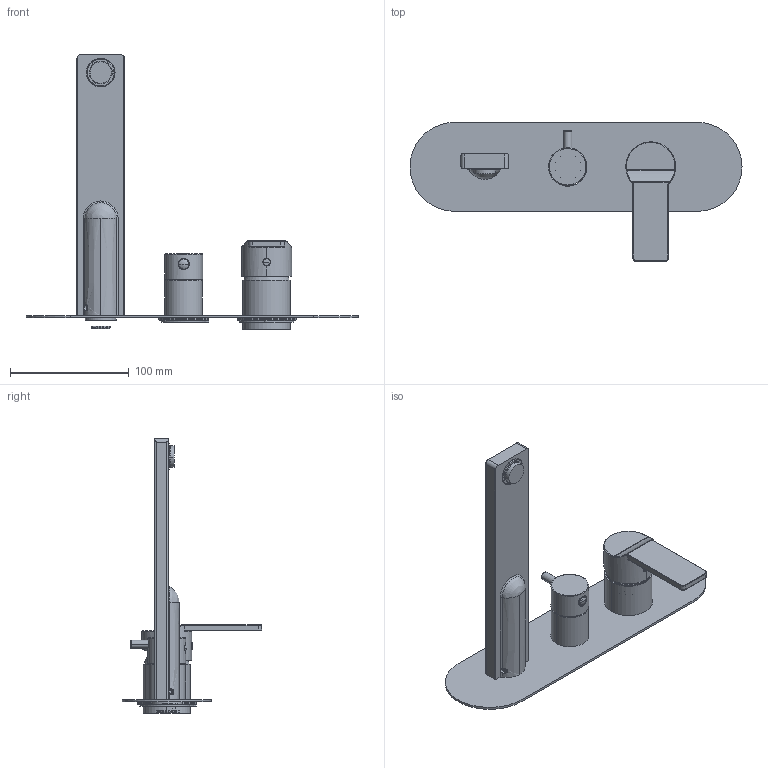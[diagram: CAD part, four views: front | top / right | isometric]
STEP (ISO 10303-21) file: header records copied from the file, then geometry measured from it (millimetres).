
FILE_DESCRIPTION((''),'2;1');
FILE_NAME('3D_SW0001','2024-03-14T14:09:44',('volponeff'),(''),'CREO PARAMETRIC BY PTC INC, 2022014','CREO PARAMETRIC BY PTC INC, 2022014','');
FILE_SCHEMA(('CONFIG_CONTROL_DESIGN'));
Products named in the file (1): 3D_SW0001
Bounding box: 280 x 117.5 x 231.5 mm (x, y, z)
Volume: 211746.3 mm3; surface area: 138629.6 mm2
Topology: 10 solids, 11 shells, 1683 faces, 4683 edges, 3032 vertices
Faces by surface type: cylinder 740, plane 474, torus 164, cone 156, bspline 133, sphere 16
Entity records: 145423 total; most frequent: CARTESIAN_POINT 103263, ORIENTED_EDGE 9304, DIRECTION 8387, EDGE_CURVE 4652, AXIS2_PLACEMENT_3D 3247, VERTEX_POINT 3032, VECTOR 1893, LINE 1893
